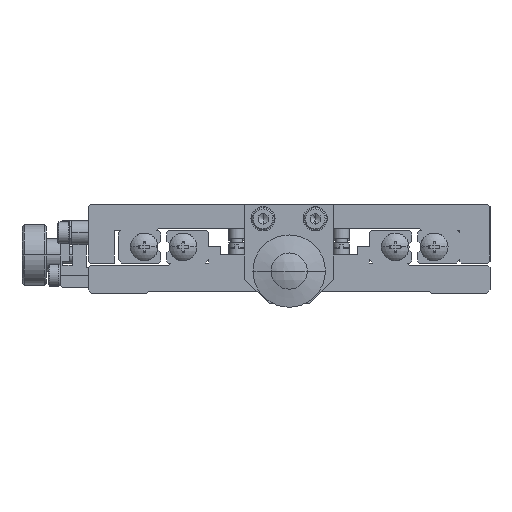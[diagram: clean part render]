
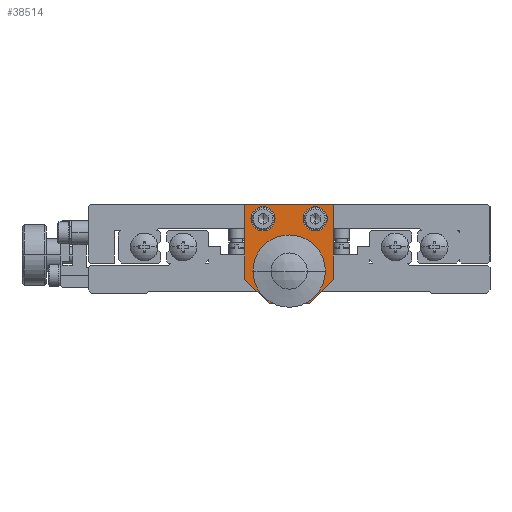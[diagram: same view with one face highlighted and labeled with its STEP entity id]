
A CAD part, front view. The second image highlights one B-rep face of the part: STEP entity #38514.
In plain terms, the highlighted planar face has unit normal (0, -1, 0) as drawn and (0, 1, 0) by its records, which use the part's own axes.
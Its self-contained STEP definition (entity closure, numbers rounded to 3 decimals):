
#8100 = DIRECTION ( 'NONE',  ( 0.707, 0., 0.707 ) ) ;
#8101 = VECTOR ( 'NONE', #8100, 1000. ) ;
#8102 = CARTESIAN_POINT ( 'NONE',  ( -3., 76.5, -32.5 ) ) ;
#8103 = LINE ( 'NONE', #8102, #8101 ) ;
#8160 = CARTESIAN_POINT ( 'NONE',  ( 0., 76.5, -24.5 ) ) ;
#8161 = DIRECTION ( 'NONE',  ( 1., 0., 0. ) ) ;
#8162 = VECTOR ( 'NONE', #8161, 1000. ) ;
#8163 = CARTESIAN_POINT ( 'NONE',  ( -11., 76.5, -24.5 ) ) ;
#8164 = LINE ( 'NONE', #8163, #8162 ) ;
#8169 = DIRECTION ( 'NONE',  ( 0., 0., 1. ) ) ;
#8170 = DIRECTION ( 'NONE',  ( 0., -1., 0. ) ) ;
#8171 = CARTESIAN_POINT ( 'NONE',  ( -6.5, 76.5, -3.5 ) ) ;
#8172 = AXIS2_PLACEMENT_3D ( 'NONE', #8171, #8170, #8169 ) ;
#8173 = CIRCLE ( 'NONE', #8172, 3. ) ;
#8194 = CARTESIAN_POINT ( 'NONE',  ( -11., 76.5, -18.5 ) ) ;
#8195 = DIRECTION ( 'NONE',  ( 0.707, 0., -0.707 ) ) ;
#8196 = VECTOR ( 'NONE', #8195, 1000. ) ;
#8197 = CARTESIAN_POINT ( 'NONE',  ( -8., 76.5, -21.5 ) ) ;
#8198 = LINE ( 'NONE', #8197, #8196 ) ;
#8203 = CARTESIAN_POINT ( 'NONE',  ( -5., 76.5, -24.5 ) ) ;
#8204 = DIRECTION ( 'NONE',  ( 1., 0., 0. ) ) ;
#8205 = VECTOR ( 'NONE', #8204, 1000. ) ;
#8206 = CARTESIAN_POINT ( 'NONE',  ( -11., 76.5, -24.5 ) ) ;
#8207 = LINE ( 'NONE', #8206, #8205 ) ;
#8208 = DIRECTION ( 'NONE',  ( 1., 0., 0. ) ) ;
#8209 = DIRECTION ( 'NONE',  ( 0., -1., 0. ) ) ;
#8210 = CARTESIAN_POINT ( 'NONE',  ( 0., 76.5, -16.5 ) ) ;
#8211 = AXIS2_PLACEMENT_3D ( 'NONE', #8210, #8209, #8208 ) ;
#8212 = CIRCLE ( 'NONE', #8211, 8. ) ;
#8213 = DIRECTION ( 'NONE',  ( 1., 0., 0. ) ) ;
#8214 = DIRECTION ( 'NONE',  ( 0., -1., 0. ) ) ;
#8215 = CARTESIAN_POINT ( 'NONE',  ( 0., 76.5, -16.5 ) ) ;
#8216 = AXIS2_PLACEMENT_3D ( 'NONE', #8215, #8214, #8213 ) ;
#8217 = CIRCLE ( 'NONE', #8216, 8. ) ;
#8218 = CARTESIAN_POINT ( 'NONE',  ( 5., 76.5, -24.5 ) ) ;
#8229 = DIRECTION ( 'NONE',  ( 0., 0., 1. ) ) ;
#8230 = VECTOR ( 'NONE', #8229, 1000. ) ;
#8231 = CARTESIAN_POINT ( 'NONE',  ( 11., 76.5, -24.5 ) ) ;
#8232 = LINE ( 'NONE', #8231, #8230 ) ;
#8233 = CARTESIAN_POINT ( 'NONE',  ( 11., 76.5, -18.5 ) ) ;
#8239 = CARTESIAN_POINT ( 'NONE',  ( 11., 76.5, 0. ) ) ;
#8240 = DIRECTION ( 'NONE',  ( 1., 0., 0. ) ) ;
#8241 = VECTOR ( 'NONE', #8240, 1000. ) ;
#8242 = CARTESIAN_POINT ( 'NONE',  ( -11., 76.5, 0. ) ) ;
#8243 = LINE ( 'NONE', #8242, #8241 ) ;
#8244 = CARTESIAN_POINT ( 'NONE',  ( -11., 76.5, 0. ) ) ;
#8245 = DIRECTION ( 'NONE',  ( 0., 0., 1. ) ) ;
#8246 = VECTOR ( 'NONE', #8245, 1000. ) ;
#8247 = CARTESIAN_POINT ( 'NONE',  ( -11., 76.5, -24.5 ) ) ;
#8248 = LINE ( 'NONE', #8247, #8246 ) ;
#8277 = DIRECTION ( 'NONE',  ( 0., -1., 0. ) ) ;
#8278 = CARTESIAN_POINT ( 'NONE',  ( 6.5, 76.5, -3.5 ) ) ;
#8279 = AXIS2_PLACEMENT_3D ( 'NONE', #8278, #8277, #8343 ) ;
#8280 = CIRCLE ( 'NONE', #8279, 3. ) ;
#8282 = DIRECTION ( 'NONE',  ( 1., 0., 0. ) ) ;
#8283 = DIRECTION ( 'NONE',  ( 0., 1., 0. ) ) ;
#8284 = CARTESIAN_POINT ( 'NONE',  ( -11., 76.5, -24.5 ) ) ;
#8285 = AXIS2_PLACEMENT_3D ( 'NONE', #8284, #8283, #8282 ) ;
#8286 = PLANE ( 'NONE',  #8285 ) ;
#8287 = FACE_OUTER_BOUND ( 'NONE', #38440, .T. ) ;
#8288 = FACE_BOUND ( 'NONE', #38436, .T. ) ;
#8289 = FACE_BOUND ( 'NONE', #38515, .T. ) ;
#8343 = DIRECTION ( 'NONE',  ( 0., 0., 1. ) ) ;
#16762 = EDGE_CURVE ( 'NONE', #16764, #16839, #27383, .T. ) ;
#16764 = VERTEX_POINT ( 'NONE', #27374 ) ;
#16839 = VERTEX_POINT ( 'NONE', #27841 ) ;
#16876 = VERTEX_POINT ( 'NONE', #27803 ) ;
#17064 = EDGE_CURVE ( 'NONE', #16876, #17066, #27900, .T. ) ;
#17066 = VERTEX_POINT ( 'NONE', #27895 ) ;
#17145 = VERTEX_POINT ( 'NONE', #27978 ) ;
#17147 = EDGE_CURVE ( 'NONE', #17150, #17145, #27977, .T. ) ;
#17150 = VERTEX_POINT ( 'NONE', #27972 ) ;
#27374 = CARTESIAN_POINT ( 'NONE',  ( -6.5, 76.5, -6.5 ) ) ;
#27379 = DIRECTION ( 'NONE',  ( 0., 0., 1. ) ) ;
#27380 = DIRECTION ( 'NONE',  ( 0., -1., 0. ) ) ;
#27381 = CARTESIAN_POINT ( 'NONE',  ( -6.5, 76.5, -3.5 ) ) ;
#27382 = AXIS2_PLACEMENT_3D ( 'NONE', #27381, #27380, #27379 ) ;
#27383 = CIRCLE ( 'NONE', #27382, 3. ) ;
#27803 = CARTESIAN_POINT ( 'NONE',  ( 6.5, 76.5, -6.5 ) ) ;
#27841 = CARTESIAN_POINT ( 'NONE',  ( -6.5, 76.5, -0.5 ) ) ;
#27895 = CARTESIAN_POINT ( 'NONE',  ( 6.5, 76.5, -0.5 ) ) ;
#27896 = DIRECTION ( 'NONE',  ( 0., 0., 1. ) ) ;
#27897 = DIRECTION ( 'NONE',  ( 0., -1., 0. ) ) ;
#27898 = CARTESIAN_POINT ( 'NONE',  ( 6.5, 76.5, -3.5 ) ) ;
#27899 = AXIS2_PLACEMENT_3D ( 'NONE', #27898, #27897, #27896 ) ;
#27900 = CIRCLE ( 'NONE', #27899, 3. ) ;
#27972 = CARTESIAN_POINT ( 'NONE',  ( 8., 76.5, -16.5 ) ) ;
#27973 = DIRECTION ( 'NONE',  ( 1., 0., 0. ) ) ;
#27974 = DIRECTION ( 'NONE',  ( 0., -1., 0. ) ) ;
#27975 = CARTESIAN_POINT ( 'NONE',  ( 0., 76.5, -16.5 ) ) ;
#27976 = AXIS2_PLACEMENT_3D ( 'NONE', #27975, #27974, #27973 ) ;
#27977 = CIRCLE ( 'NONE', #27976, 8. ) ;
#27978 = CARTESIAN_POINT ( 'NONE',  ( -8., 76.5, -16.5 ) ) ;
#38400 = ORIENTED_EDGE ( 'NONE', *, *, #38402, .F. ) ;
#38402 = EDGE_CURVE ( 'NONE', #38449, #38476, #8103, .T. ) ;
#38436 = EDGE_LOOP ( 'NONE', ( #38437, #38439 ) ) ;
#38437 = ORIENTED_EDGE ( 'NONE', *, *, #38438, .T. ) ;
#38438 = EDGE_CURVE ( 'NONE', #16839, #16764, #8173, .T. ) ;
#38439 = ORIENTED_EDGE ( 'NONE', *, *, #16762, .T. ) ;
#38440 = EDGE_LOOP ( 'NONE', ( #38442, #38450, #38452, #38453, #38455, #38460, #38464, #38470, #38479, #38400 ) ) ;
#38442 = ORIENTED_EDGE ( 'NONE', *, *, #38444, .F. ) ;
#38444 = EDGE_CURVE ( 'NONE', #38445, #38449, #8164, .T. ) ;
#38445 = VERTEX_POINT ( 'NONE', #8160 ) ;
#38449 = VERTEX_POINT ( 'NONE', #8218 ) ;
#38450 = ORIENTED_EDGE ( 'NONE', *, *, #38451, .T. ) ;
#38451 = EDGE_CURVE ( 'NONE', #38445, #17150, #8217, .T. ) ;
#38452 = ORIENTED_EDGE ( 'NONE', *, *, #17147, .T. ) ;
#38453 = ORIENTED_EDGE ( 'NONE', *, *, #38454, .T. ) ;
#38454 = EDGE_CURVE ( 'NONE', #17145, #38445, #8212, .T. ) ;
#38455 = ORIENTED_EDGE ( 'NONE', *, *, #38456, .F. ) ;
#38456 = EDGE_CURVE ( 'NONE', #38458, #38445, #8207, .T. ) ;
#38458 = VERTEX_POINT ( 'NONE', #8203 ) ;
#38460 = ORIENTED_EDGE ( 'NONE', *, *, #38462, .F. ) ;
#38462 = EDGE_CURVE ( 'NONE', #38463, #38458, #8198, .T. ) ;
#38463 = VERTEX_POINT ( 'NONE', #8194 ) ;
#38464 = ORIENTED_EDGE ( 'NONE', *, *, #38468, .T. ) ;
#38468 = EDGE_CURVE ( 'NONE', #38463, #38469, #8248, .T. ) ;
#38469 = VERTEX_POINT ( 'NONE', #8244 ) ;
#38470 = ORIENTED_EDGE ( 'NONE', *, *, #38471, .T. ) ;
#38471 = EDGE_CURVE ( 'NONE', #38469, #38473, #8243, .T. ) ;
#38473 = VERTEX_POINT ( 'NONE', #8239 ) ;
#38476 = VERTEX_POINT ( 'NONE', #8233 ) ;
#38479 = ORIENTED_EDGE ( 'NONE', *, *, #38480, .F. ) ;
#38480 = EDGE_CURVE ( 'NONE', #38476, #38473, #8232, .T. ) ;
#38514 = ADVANCED_FACE ( 'NONE', ( #8289, #8288, #8287 ), #8286, .T. ) ;
#38515 = EDGE_LOOP ( 'NONE', ( #38517, #38519 ) ) ;
#38517 = ORIENTED_EDGE ( 'NONE', *, *, #38518, .T. ) ;
#38518 = EDGE_CURVE ( 'NONE', #17066, #16876, #8280, .T. ) ;
#38519 = ORIENTED_EDGE ( 'NONE', *, *, #17064, .T. ) ;
